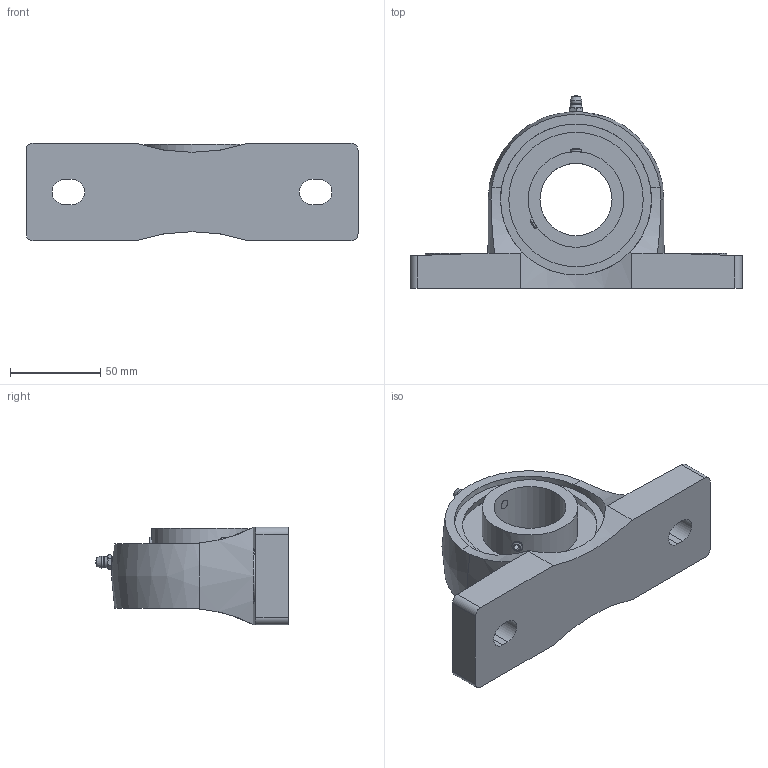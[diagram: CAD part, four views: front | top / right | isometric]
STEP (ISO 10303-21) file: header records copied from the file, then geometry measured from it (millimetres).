
FILE_DESCRIPTION(/* description */ (''),/* implementation_level */ '2;1');
FILE_NAME(/* name */ 'C:\Users\UGijyutu_200702\Desktop\09.プラスチックハウジング\MBPPL200V\MBPPL200V\MBPPL208V.stp',/* time_stamp */ '2023-02-10T14:04:36+09:00',/* author */ ('UGijyutu_200702'),/* organization */ (''),/* preprocessor_version */ 'ST-DEVELOPER v18',/* originating_system */ 'Autodesk Inventor 2020',/* authorisation */ '');
FILE_SCHEMA (('AUTOMOTIVE_DESIGN { 1 0 10303 214 3 1 1 }'));
Length unit declared in the file: millimetre
Products named in the file (4): MBPPL208V; PPL208; MB8 V; 1/4-28UNF-2A
Assembly tree (3 placements, depth 2):
  MBPPL208V
    PPL208
    MB8 V
    1/4-28UNF-2A
Bounding box: 184 x 106.8 x 54 mm (x, y, z)
Volume: 314856 mm3; surface area: 66290.1 mm2
Topology: 3 solids, 3 shells, 107 faces, 279 edges, 187 vertices
Faces by surface type: plane 54, cylinder 31, cone 15, sphere 4, torus 2, bspline 1
Full cylindrical faces by diameter (mm): 3.2 x1, 5.359 x1, 6 x2, 6.35 x1, 40 x1, 53 x1, 83.7 x2
Entity records: 3858 total; most frequent: CARTESIAN_POINT 1015, ORIENTED_EDGE 556, DIRECTION 544, EDGE_CURVE 278, AXIS2_PLACEMENT_3D 211, VERTEX_POINT 187, EDGE_LOOP 127, LINE 122
